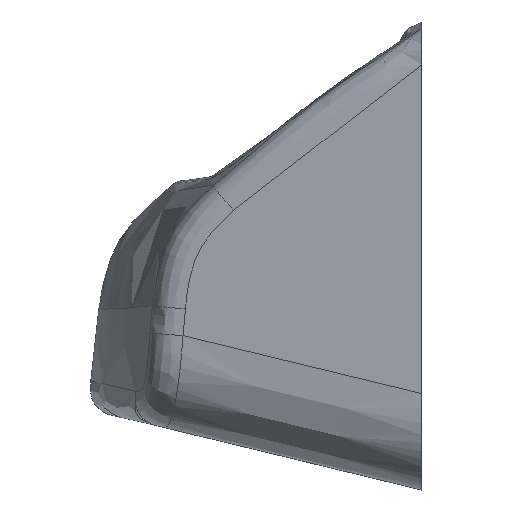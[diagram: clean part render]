
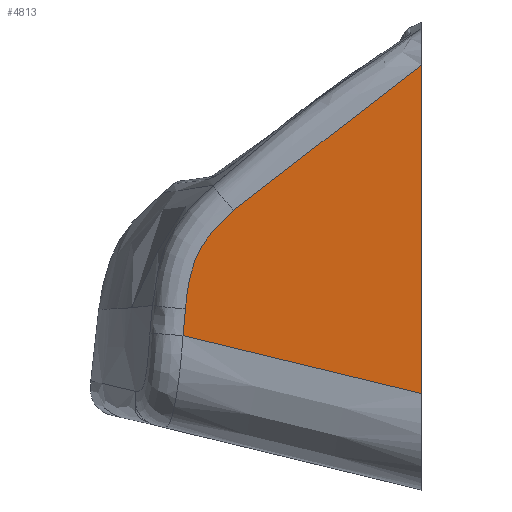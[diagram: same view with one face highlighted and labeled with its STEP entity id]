
A CAD part, front view. The second image highlights one B-rep face of the part: STEP entity #4813.
In plain terms, the highlighted free-form (B-spline) face has degree [2, 1] with [3, 2] control points.
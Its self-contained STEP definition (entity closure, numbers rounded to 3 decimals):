
#4724=CARTESIAN_POINT('Vertex',(-544.79,-797.38,495.048)) ;
#4728=CARTESIAN_POINT('Control Point',(-523.705,-799.224,511.334)) ;
#4729=CARTESIAN_POINT('Control Point',(-531.19,-798.569,506.531)) ;
#4730=CARTESIAN_POINT('Control Point',(-538.23,-797.953,501.086)) ;
#4731=CARTESIAN_POINT('Control Point',(-544.79,-797.38,495.048)) ;
#4732=CARTESIAN_POINT('Vertex',(-523.705,-799.224,511.334)) ;
#4760=CARTESIAN_POINT('Control Point',(-560.827,-795.976,456.819)) ;
#4761=CARTESIAN_POINT('Control Point',(-513.744,-800.096,456.819)) ;
#4762=CARTESIAN_POINT('Control Point',(-560.827,-795.976,489.019)) ;
#4763=CARTESIAN_POINT('Control Point',(-513.744,-800.096,489.019)) ;
#4764=CARTESIAN_POINT('Control Point',(-560.827,-795.976,521.219)) ;
#4765=CARTESIAN_POINT('Control Point',(-513.744,-800.096,521.219)) ;
#4767=CARTESIAN_POINT('Control Point',(-544.79,-797.38,495.048)) ;
#4768=CARTESIAN_POINT('Control Point',(-545.455,-797.321,494.437)) ;
#4769=CARTESIAN_POINT('Control Point',(-546.128,-797.262,493.801)) ;
#4770=CARTESIAN_POINT('Control Point',(-546.775,-797.206,493.14)) ;
#4771=CARTESIAN_POINT('Control Point',(-547.681,-797.127,492.084)) ;
#4772=CARTESIAN_POINT('Control Point',(-548.437,-797.06,490.883)) ;
#4773=CARTESIAN_POINT('Control Point',(-548.67,-797.04,490.462)) ;
#4774=CARTESIAN_POINT('Control Point',(-549.101,-797.002,489.559)) ;
#4775=CARTESIAN_POINT('Control Point',(-549.436,-796.973,488.575)) ;
#4776=CARTESIAN_POINT('Control Point',(-549.587,-796.96,488.035)) ;
#4777=CARTESIAN_POINT('Control Point',(-549.837,-796.938,486.928)) ;
#4778=CARTESIAN_POINT('Control Point',(-550.006,-796.923,485.778)) ;
#4779=CARTESIAN_POINT('Control Point',(-550.078,-796.917,485.175)) ;
#4780=CARTESIAN_POINT('Control Point',(-550.14,-796.911,484.569)) ;
#4781=CARTESIAN_POINT('Control Point',(-550.199,-796.906,483.963)) ;
#4782=CARTESIAN_POINT('Vertex',(-550.199,-796.906,483.963)) ;
#4786=CARTESIAN_POINT('Control Point',(-550.458,-796.884,480.975)) ;
#4787=CARTESIAN_POINT('Control Point',(-550.383,-796.89,481.971)) ;
#4788=CARTESIAN_POINT('Control Point',(-550.297,-796.898,482.967)) ;
#4789=CARTESIAN_POINT('Control Point',(-550.199,-796.906,483.963)) ;
#4790=CARTESIAN_POINT('Vertex',(-550.458,-796.884,480.975)) ;
#4794=CARTESIAN_POINT('Control Point',(-550.458,-796.884,480.975)) ;
#4795=CARTESIAN_POINT('Control Point',(-541.541,-797.664,478.81)) ;
#4796=CARTESIAN_POINT('Control Point',(-532.623,-798.444,476.645)) ;
#4797=CARTESIAN_POINT('Control Point',(-523.705,-799.224,474.48)) ;
#4798=CARTESIAN_POINT('Vertex',(-523.705,-799.224,474.48)) ;
#4802=CARTESIAN_POINT('Control Point',(-523.705,-799.224,474.48)) ;
#4803=CARTESIAN_POINT('Control Point',(-523.705,-799.224,492.907)) ;
#4804=CARTESIAN_POINT('Control Point',(-523.705,-799.224,511.334)) ;
#4807=ORIENTED_EDGE('',*,*,#4784,.T.) ;
#4808=ORIENTED_EDGE('',*,*,#4792,.F.) ;
#4809=ORIENTED_EDGE('',*,*,#4800,.T.) ;
#4810=ORIENTED_EDGE('',*,*,#4805,.T.) ;
#4811=ORIENTED_EDGE('',*,*,#4734,.F.) ;
#4813=ADVANCED_FACE('\X2\575076C68C038282624B67C4\X0\-2020.1217',(#4812),#4759,.F.) ;
#4727=B_SPLINE_CURVE_WITH_KNOTS('',3,(#4728,#4729,#4730,#4731),.UNSPECIFIED.,.F.,.U.,(4,4),(33.977,75.159),.UNSPECIFIED.) ;
#4766=B_SPLINE_CURVE_WITH_KNOTS('',5,(#4767,#4768,#4769,#4770,#4771,#4772,#4773,#4774,#4775,#4776,#4777,#4778,#4779,#4780,#4781),.UNSPECIFIED.,.F.,.U.,(6,3,3,3,6),(0.,7.773,11.735,15.821,20.222),.UNSPECIFIED.) ;
#4785=B_SPLINE_CURVE_WITH_KNOTS('',3,(#4786,#4787,#4788,#4789),.UNSPECIFIED.,.F.,.U.,(4,4),(0.,5.335),.UNSPECIFIED.) ;
#4793=B_SPLINE_CURVE_WITH_KNOTS('',3,(#4794,#4795,#4796,#4797),.UNSPECIFIED.,.F.,.U.,(4,4),(18.542,66.379),.UNSPECIFIED.) ;
#4801=B_SPLINE_CURVE_WITH_KNOTS('',2,(#4802,#4803,#4804),.UNSPECIFIED.,.F.,.U.,(3,3),(18.567,55.421),.UNSPECIFIED.) ;
#4759=B_SPLINE_SURFACE_WITH_KNOTS('',2,1,((#4760,#4761),(#4762,#4763),(#4764,#4765)),.UNSPECIFIED.,.F.,.F.,.U.,(3,3),(2,2),(0.906,65.305),(7.695,54.959),.UNSPECIFIED.) ;
#4734=EDGE_CURVE('',#4725,#4733,#4727,.F.) ;
#4784=EDGE_CURVE('',#4725,#4783,#4766,.T.) ;
#4792=EDGE_CURVE('',#4791,#4783,#4785,.T.) ;
#4800=EDGE_CURVE('',#4791,#4799,#4793,.T.) ;
#4805=EDGE_CURVE('',#4799,#4733,#4801,.T.) ;
#4806=EDGE_LOOP('',(#4807,#4808,#4809,#4810,#4811)) ;
#4812=FACE_OUTER_BOUND('',#4806,.T.) ;
#4725=VERTEX_POINT('',#4724) ;
#4733=VERTEX_POINT('',#4732) ;
#4783=VERTEX_POINT('',#4782) ;
#4791=VERTEX_POINT('',#4790) ;
#4799=VERTEX_POINT('',#4798) ;
